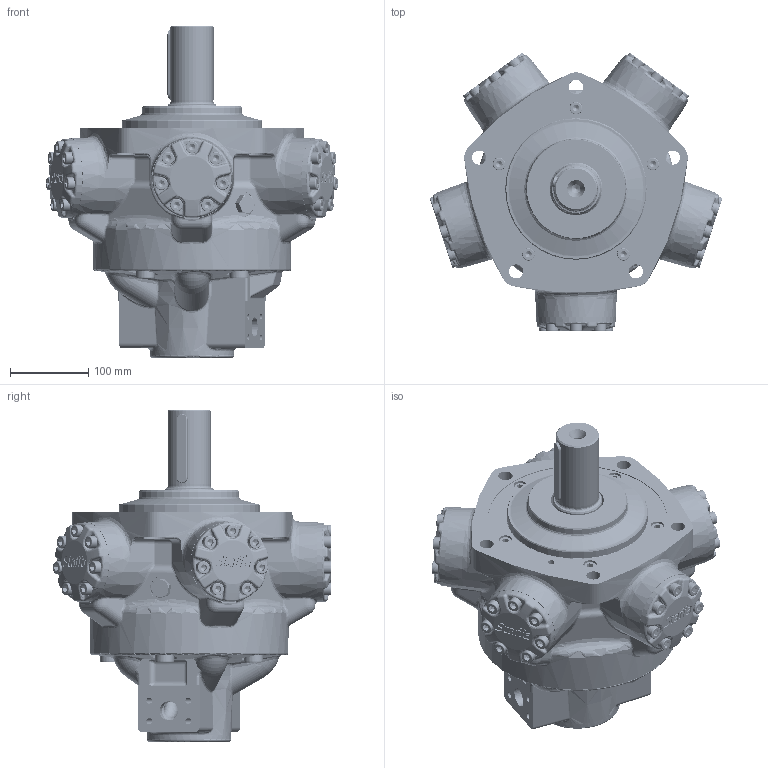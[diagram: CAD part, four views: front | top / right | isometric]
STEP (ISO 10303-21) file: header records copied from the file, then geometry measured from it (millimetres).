
FILE_DESCRIPTION((''),'2;1');
FILE_NAME('I:\3D Step files\APPROVED 3D MODELS FOR WEB\Staffa\HMB030 P FM2 50.stp','2010-02-05T11:42:18',('mnorman'),(''),'Autodesk Inventor 2010','Autodesk Inventor 2010','');
FILE_SCHEMA(('AUTOMOTIVE_DESIGN { 1 0 10303 214 1 1 1 1 }'));
Length unit declared in the file: millimetre
Products named in the file (1): Part2
Bounding box: 373.47 x 355.31 x 424.02 mm (x, y, z)
Volume: 1328856.6 mm3; surface area: 991086.8 mm2
Topology: 93 solids, 94 shells, 3791 faces, 9565 edges, 5940 vertices
Faces by surface type: bspline 1510, plane 1159, cylinder 479, torus 285, cone 241, sphere 117
Full cylindrical faces by diameter (mm): 7.798 x4, 7.937 x4, 8.382 x15, 10 x40, 13.614 x1, 14.656 x2, 15.24 x4, 15.875 x5, 16 x40, 16.272 x5, 17.78 x1, 18 x4, 18.5 x1, 20.574 x1, 22.225 x5, 23.825 x5, 24.638 x1, 25.4 x5, 28.677 x5, 31.75 x3, 38.176 x5, 41.275 x1, 44 x5, 51.918 x5, 54.996 x1, 55.575 x1, 57.16 x1, 58.014 x10, 58.071 x5, 63.475 x1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
Entity records: 155136 total; most frequent: CARTESIAN_POINT 75437, ORIENTED_EDGE 16616, DIRECTION 12582, EDGE_CURVE 8308, VERTEX_POINT 5536, AXIS2_PLACEMENT_3D 4990, EDGE_LOOP 4748, FACE_OUTER_BOUND 3791
